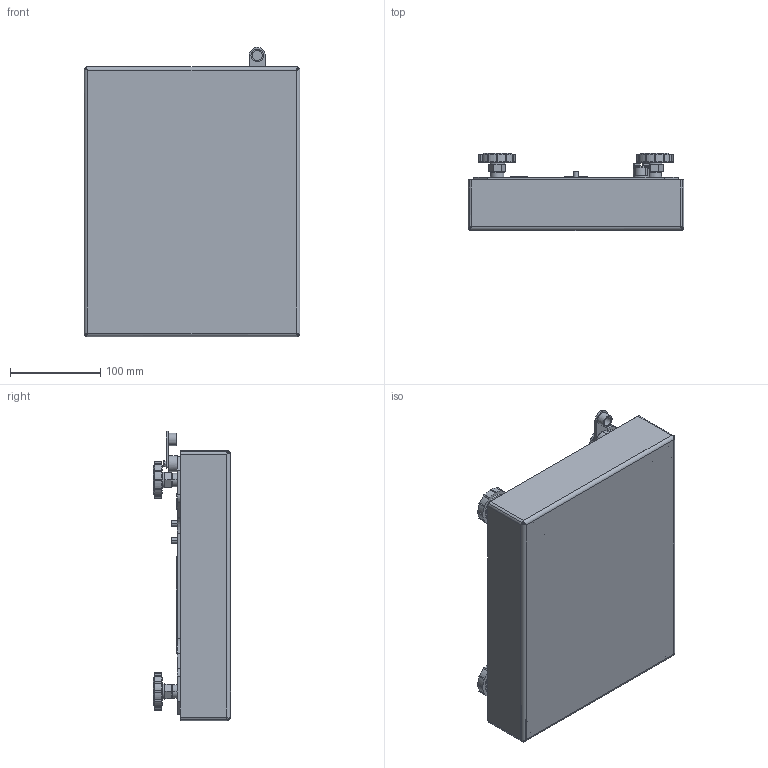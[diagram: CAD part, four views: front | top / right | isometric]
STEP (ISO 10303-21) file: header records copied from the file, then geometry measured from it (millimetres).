
FILE_DESCRIPTION((''),'2;1');
FILE_NAME('PLATFORM_PBA43X_A_NO_HYGIENIC','2022-03-18T09:38:39',('fu-34'),(''),'CREO PARAMETRIC BY PTC INC, 2018260','CREO PARAMETRIC BY PTC INC, 2018260','');
FILE_SCHEMA(('CONFIG_CONTROL_DESIGN','SHAPE_APPEARANCE_LAYERS_GROUPS'));
Products named in the file (1): PLATFORM_PBA43X_A_NO_HYGIENIC
Bounding box: 239.9 x 85.6 x 321.45 mm (x, y, z)
Volume: 771483.7 mm3; surface area: 558278.7 mm2
Topology: 5 solids, 72 shells, 2501 faces, 6177 edges, 3941 vertices
Faces by surface type: plane 1511, cylinder 638, cone 290, torus 40, bspline 18, sphere 4
Entity records: 91293 total; most frequent: CARTESIAN_POINT 16208, DIRECTION 12155, ORIENTED_EDGE 12107, EDGE_CURVE 6151, AXIS2_PLACEMENT_3D 4130, VERTEX_POINT 3941, VECTOR 3895, LINE 3895
